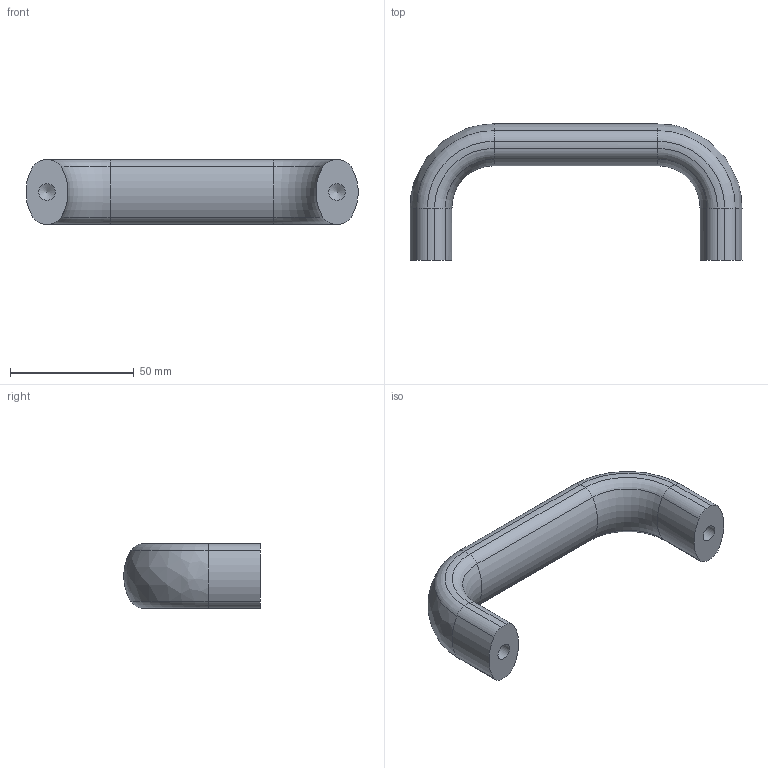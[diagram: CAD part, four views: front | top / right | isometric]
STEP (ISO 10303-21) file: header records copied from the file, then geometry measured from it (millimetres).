
FILE_DESCRIPTION( ( 'STEP AP203' ), '1' );
FILE_NAME( 'C:/Temp/Ganter_Step_05_03_2020/data/1_2/gn_565/Cabinet ''''U'''' handle GN 565-26-117-BL.stp', '2020-03-05T10:08:54', ( 'License CC BY-ND 4.0' ), ( 'CADENAS' ), ' ', 'PARTsolutions', ' ' );
FILE_SCHEMA( ( 'CONFIG_CONTROL_DESIGN' ) );
Length unit declared in the file: millimetre
Products named in the file (1): _Cabinet ''U'' handle GN 565-26-117-BL
Bounding box: 133.88 x 54.99 x 25.99 mm (x, y, z)
Volume: 66065.1 mm3; surface area: 14367.8 mm2
Topology: 1 solids, 1 shells, 52 faces, 130 edges, 80 vertices
Faces by surface type: cylinder 26, torus 14, plane 8, cone 2, bspline 2
Full cylindrical faces by diameter (mm): 6.647 x2
Entity records: 1648 total; most frequent: CARTESIAN_POINT 341, DIRECTION 302, ORIENTED_EDGE 248, AXIS2_PLACEMENT_3D 139, EDGE_CURVE 124, CIRCLE 88, VERTEX_POINT 80, EDGE_LOOP 56
